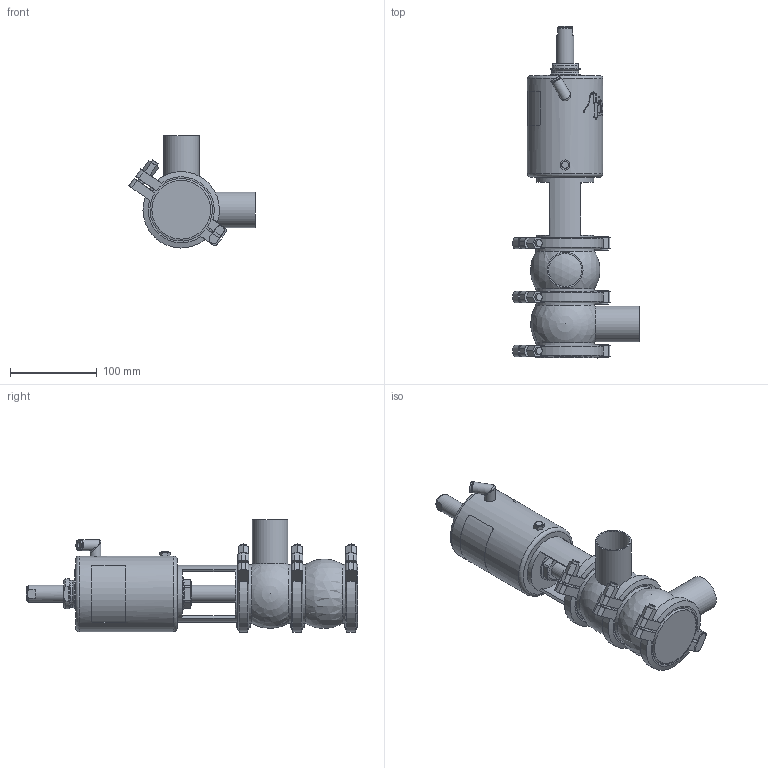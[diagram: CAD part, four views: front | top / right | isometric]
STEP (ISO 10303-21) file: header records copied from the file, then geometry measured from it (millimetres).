
FILE_DESCRIPTION (( 'STEP AP214' ), '1' );
FILE_NAME ('INNOVA M D W DIN 040 T1 AS NC_10.241.16.0010.STEP', '2024-08-07T07:55:32', ( '' ), ( '' ), 'SwSTEP 2.0', 'SolidWorks 2023', '' );
FILE_SCHEMA (( 'AUTOMOTIVE_DESIGN' ));
Length unit declared in the file: millimetre
Products named in the file (6): 10.241.15.0001_DIN 040; 10.240.15.0014_T1 AS P180; 10.240.15.0006_DIN 040; INNOVA M D W DIN 040 T1 AS NC_10.241.16.0010; 10.240.15.0001_DN 040; 10.240.15.0010_DN 040
Assembly tree (8 placements, depth 2):
  INNOVA M D W DIN 040 T1 AS NC_10.241.16.0010
    10.240.15.0006_DIN 040  x2
    10.240.15.0010_DN 040
    10.240.15.0014_T1 AS P180
    10.240.15.0001_DN 040  x3
    10.241.15.0001_DIN 040
Bounding box: 145.13 x 382.07 x 129 mm (x, y, z)
Volume: 1499658.7 mm3; surface area: 220075.1 mm2
Topology: 9 solids, 9 shells, 459 faces, 1207 edges, 786 vertices
Faces by surface type: plane 225, cylinder 110, bspline 80, cone 36, sphere 4, torus 4
Full cylindrical faces by diameter (mm): 6.15 x1, 8 x7, 8.5 x1, 10.5 x1, 12.5 x3, 16 x1, 20 x2, 31 x1, 34.5 x2, 36.5 x1, 38 x2, 41 x2, 66 x1, 67.5 x5, 79.5 x6, 87 x1
Entity records: 19282 total; most frequent: CARTESIAN_POINT 10173, ORIENTED_EDGE 1592, DIRECTION 1205, EDGE_CURVE 796, VERTEX_POINT 547, AXIS2_PLACEMENT_3D 458, EDGE_LOOP 399, FACE_OUTER_BOUND 360
